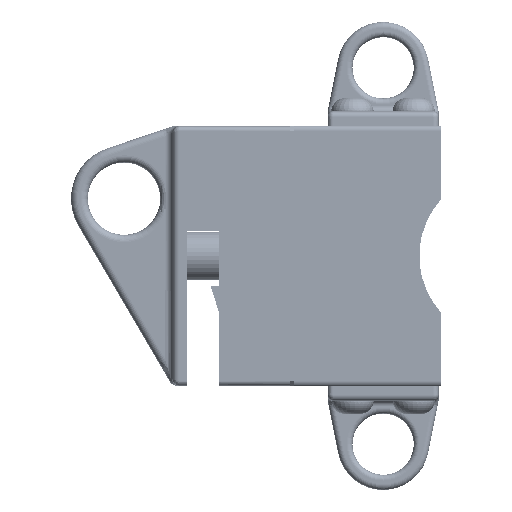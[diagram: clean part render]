
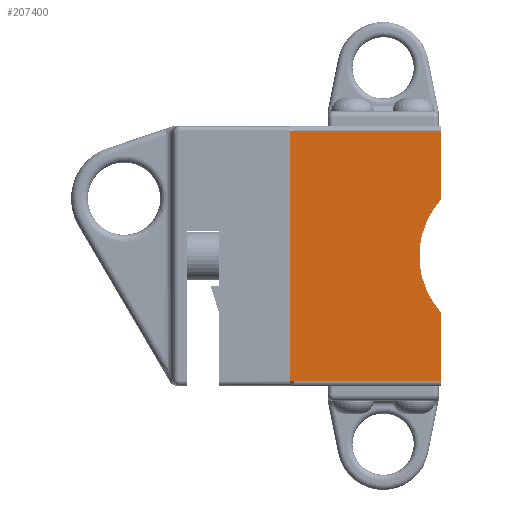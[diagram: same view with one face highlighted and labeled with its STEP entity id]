
A CAD part, left-side view. The second image highlights one B-rep face of the part: STEP entity #207400.
In plain terms, the highlighted planar face has unit normal (-1, 0, 0).
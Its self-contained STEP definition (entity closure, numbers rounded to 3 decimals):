
#407 = FACE_OUTER_BOUND ( 'NONE', #42782, .T. ) ;
#1059 = DIRECTION ( 'NONE',  ( 0., 1., 0. ) ) ;
#2829 = DIRECTION ( 'NONE',  ( -1., 0., 0. ) ) ;
#4040 = CARTESIAN_POINT ( 'NONE',  ( -27.537, 24.044, -51.504 ) ) ;
#5082 = ORIENTED_EDGE ( 'NONE', *, *, #74252, .T. ) ;
#6908 = AXIS2_PLACEMENT_3D ( 'NONE', #127317, #2829, #21483 ) ;
#15172 = CARTESIAN_POINT ( 'NONE',  ( -27.537, 25.544, 52.496 ) ) ;
#16125 = VECTOR ( 'NONE', #198921, 1000. ) ;
#18579 = EDGE_CURVE ( 'NONE', #170942, #111779, #38436, .T. ) ;
#18814 = LINE ( 'NONE', #4040, #16125 ) ;
#19821 = VERTEX_POINT ( 'NONE', #127057 ) ;
#21314 = CARTESIAN_POINT ( 'NONE',  ( -27.537, -36.956, -22.935 ) ) ;
#21483 = DIRECTION ( 'NONE',  ( 0., 0., -1. ) ) ;
#21990 = CARTESIAN_POINT ( 'NONE',  ( -27.537, 24.044, 52.496 ) ) ;
#22311 = DIRECTION ( 'NONE',  ( 0., 1., 0. ) ) ;
#22353 = VECTOR ( 'NONE', #22311, 1000. ) ;
#22938 = EDGE_CURVE ( 'NONE', #163205, #69546, #197493, .T. ) ;
#24724 = ORIENTED_EDGE ( 'NONE', *, *, #22938, .T. ) ;
#26743 = LINE ( 'NONE', #21990, #220381 ) ;
#31350 = VECTOR ( 'NONE', #154696, 1000. ) ;
#38436 = LINE ( 'NONE', #225139, #96598 ) ;
#42782 = EDGE_LOOP ( 'NONE', ( #155438, #24724, #50258, #226255, #117984, #5082, #159155, #126663 ) ) ;
#44545 = EDGE_CURVE ( 'NONE', #69546, #170942, #18814, .T. ) ;
#46076 = EDGE_CURVE ( 'NONE', #75107, #179765, #26743, .T. ) ;
#46653 = CARTESIAN_POINT ( 'NONE',  ( -27.537, 25.544, -51.504 ) ) ;
#50258 = ORIENTED_EDGE ( 'NONE', *, *, #44545, .T. ) ;
#69376 = VECTOR ( 'NONE', #204637, 1000. ) ;
#69434 = LINE ( 'NONE', #146675, #22353 ) ;
#69546 = VERTEX_POINT ( 'NONE', #160235 ) ;
#74252 = EDGE_CURVE ( 'NONE', #19821, #75107, #130029, .T. ) ;
#75107 = VERTEX_POINT ( 'NONE', #96064 ) ;
#84546 = AXIS2_PLACEMENT_3D ( 'NONE', #105711, #123418, #229375 ) ;
#96064 = CARTESIAN_POINT ( 'NONE',  ( -27.537, -36.956, 52.496 ) ) ;
#96598 = VECTOR ( 'NONE', #154717, 1000. ) ;
#104087 = VECTOR ( 'NONE', #196731, 1000. ) ;
#105711 = CARTESIAN_POINT ( 'NONE',  ( -27.537, 24.044, -53.504 ) ) ;
#106966 = LINE ( 'NONE', #194456, #104087 ) ;
#111779 = VERTEX_POINT ( 'NONE', #21314 ) ;
#114211 = CARTESIAN_POINT ( 'NONE',  ( -27.537, -36.956, -53.504 ) ) ;
#117984 = ORIENTED_EDGE ( 'NONE', *, *, #213134, .F. ) ;
#121899 = PLANE ( 'NONE',  #84546 ) ;
#123418 = DIRECTION ( 'NONE',  ( 1., 0., 0. ) ) ;
#126663 = ORIENTED_EDGE ( 'NONE', *, *, #131908, .T. ) ;
#127057 = CARTESIAN_POINT ( 'NONE',  ( -27.537, -36.956, 23.927 ) ) ;
#127317 = CARTESIAN_POINT ( 'NONE',  ( -27.537, -62.956, 0.496 ) ) ;
#130029 = LINE ( 'NONE', #114211, #69376 ) ;
#131908 = EDGE_CURVE ( 'NONE', #179765, #222228, #69434, .T. ) ;
#141144 = CIRCLE ( 'NONE', #6908, 35. ) ;
#146675 = CARTESIAN_POINT ( 'NONE',  ( -27.537, 25.544, 52.496 ) ) ;
#154696 = DIRECTION ( 'NONE',  ( 0., -1., 0. ) ) ;
#154717 = DIRECTION ( 'NONE',  ( 0., 0., 1. ) ) ;
#155438 = ORIENTED_EDGE ( 'NONE', *, *, #181175, .F. ) ;
#159155 = ORIENTED_EDGE ( 'NONE', *, *, #46076, .T. ) ;
#160235 = CARTESIAN_POINT ( 'NONE',  ( -27.537, 24.044, -51.504 ) ) ;
#163205 = VERTEX_POINT ( 'NONE', #194962 ) ;
#170942 = VERTEX_POINT ( 'NONE', #203502 ) ;
#179765 = VERTEX_POINT ( 'NONE', #190809 ) ;
#181175 = EDGE_CURVE ( 'NONE', #163205, #222228, #106966, .T. ) ;
#190809 = CARTESIAN_POINT ( 'NONE',  ( -27.537, 24.044, 52.496 ) ) ;
#194456 = CARTESIAN_POINT ( 'NONE',  ( -27.537, 25.544, 54.496 ) ) ;
#194962 = CARTESIAN_POINT ( 'NONE',  ( -27.537, 25.544, -51.504 ) ) ;
#196731 = DIRECTION ( 'NONE',  ( 0., 0., 1. ) ) ;
#197493 = LINE ( 'NONE', #46653, #31350 ) ;
#198921 = DIRECTION ( 'NONE',  ( 0., -1., 0. ) ) ;
#203502 = CARTESIAN_POINT ( 'NONE',  ( -27.537, -36.956, -51.504 ) ) ;
#204637 = DIRECTION ( 'NONE',  ( 0., 0., 1. ) ) ;
#207400 = ADVANCED_FACE ( 'NONE', ( #407 ), #121899, .F. ) ;
#213134 = EDGE_CURVE ( 'NONE', #19821, #111779, #141144, .T. ) ;
#220381 = VECTOR ( 'NONE', #1059, 1000. ) ;
#222228 = VERTEX_POINT ( 'NONE', #15172 ) ;
#225139 = CARTESIAN_POINT ( 'NONE',  ( -27.537, -36.956, -53.504 ) ) ;
#226255 = ORIENTED_EDGE ( 'NONE', *, *, #18579, .T. ) ;
#229375 = DIRECTION ( 'NONE',  ( 0., 0., -1. ) ) ;
